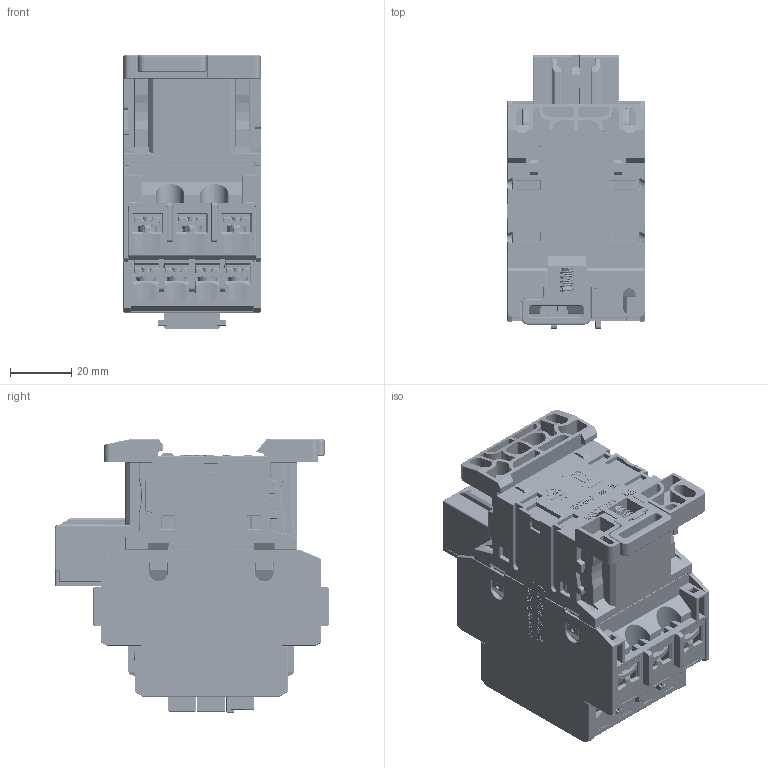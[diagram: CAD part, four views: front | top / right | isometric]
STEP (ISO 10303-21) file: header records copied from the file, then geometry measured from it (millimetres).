
FILE_DESCRIPTION((''),'2;1');
FILE_NAME('2ZTJ-401-031_SW0002','2022-03-10T16:22:17',('lulq'),(''),'CREO PARAMETRIC BY PTC INC, 2020044','CREO PARAMETRIC BY PTC INC, 2020044','');
FILE_SCHEMA(('CONFIG_CONTROL_DESIGN','SHAPE_APPEARANCE_LAYERS_GROUPS'));
Products named in the file (1): 2ZTJ-401-031_SW0002
Bounding box: 45.2 x 89.5 x 89.3 mm (x, y, z)
Volume: 194372.4 mm3; surface area: 76416.2 mm2
Topology: 1 solids, 2 shells, 14534 faces, 40036 edges, 25202 vertices
Faces by surface type: plane 8485, cylinder 3961, torus 1031, sphere 509, bspline 425, cone 123
Entity records: 596436 total; most frequent: CARTESIAN_POINT 144771, ORIENTED_EDGE 80006, DIRECTION 72191, EDGE_CURVE 40003, VECTOR 27793, LINE 27793, VERTEX_POINT 25202, AXIS2_PLACEMENT_3D 22199
